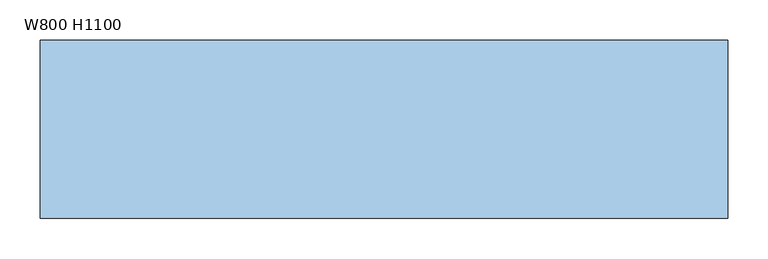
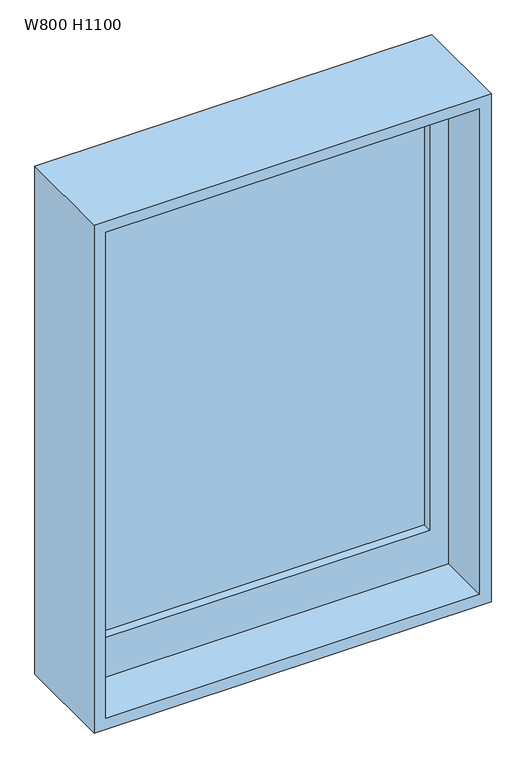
"""IFC4 building model written with IfcOpenShell, lengths in millimetres: window geometry, すべり出し窓 : W800 H1100."""

from ifc_helpers import new_model, si_unit, frame, origin, place, context, project, spatial, polyline, outline, extrude, source, transform, mapped, element, save


def w800_h1100_43525bd9(model_context):
    return source(origin(), model_context, "Body", "SweptSolid", [
        extrude(outline(polyline([(-285.0, 30.0), (435.0, 30.0), (435.0, 25.0), (-285.0, 25.0), (-285.0, 30.0)])), frame((0.0, 0.0, 990.0), z_axis=(0.0, 0.0, 1.0), x_axis=(1.0, 0.0, 0.0)), (0.0, 0.0, 1.0), 970.0),
        extrude(outline(polyline([(2000.0, 475.0), (2000.0, -325.0), (900.0, -325.0), (900.0, 475.0), (2000.0, 475.0)]), holes=[polyline([(1960.0, 435.0), (990.0, 435.0), (990.0, -285.0), (1960.0, -285.0), (1960.0, 435.0)])]), frame((0.0, 5.0, 0.0), z_axis=(0.0, 1.0, 0.0), x_axis=(0.0, 0.0, 1.0)), (0.0, 0.0, 1.0), 30.0),
        extrude(outline(polyline([(2025.0, 500.0), (2025.0, -350.0), (875.0, -350.0), (875.0, 500.0), (2025.0, 500.0)]), holes=[polyline([(900.0, 475.0), (900.0, -325.0), (2000.0, -325.0), (2000.0, 475.0), (900.0, 475.0)])]), frame((0.0, -110.0, 0.0), z_axis=(0.0, 1.0, 0.0), x_axis=(0.0, 0.0, 1.0)), (0.0, 0.0, 1.0), 220.0),
    ])


if __name__ == "__main__":
    model = new_model("IFC4")
    model_context = context("Model", 3, world=origin())
    ifc_project = project(units=[si_unit("LENGTHUNIT", "METRE", prefix="MILLI")], contexts=[model_context])
    site = spatial("IfcSite", under=ifc_project)
    building = spatial("IfcBuilding", under=site)
    placement = place(None, origin())
    w800_h1100_shape = w800_h1100_43525bd9(model_context)
    element("IfcWindow", 1, ObjectType="すべり出し窓 : W800 H1100", at=placement, inside=building, context=model_context, shape_type="MappedRepresentation", body=[
        mapped(w800_h1100_shape, transform((0.0, 0.0, 0.0), x_axis=(1.0, 0.0, 0.0), y_axis=(0.0, 1.0, 0.0), z_axis=(0.0, 0.0, 1.0))),
    ])
    save(model, "model.ifc")
